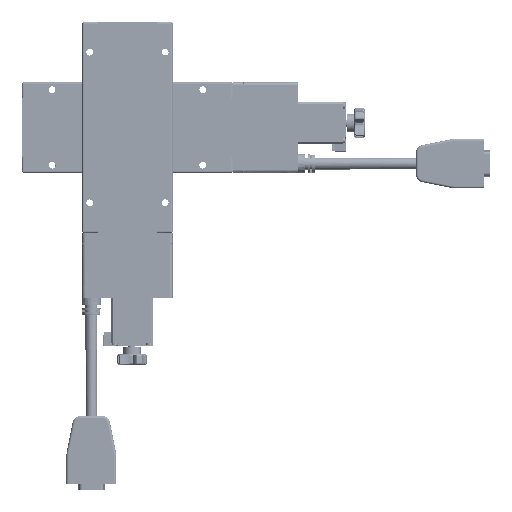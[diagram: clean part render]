
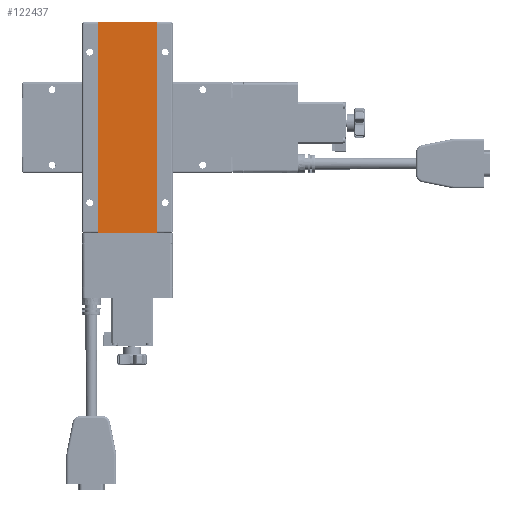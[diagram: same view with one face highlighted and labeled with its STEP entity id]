
A CAD part, front view. The second image highlights one B-rep face of the part: STEP entity #122437.
In plain terms, the highlighted planar face has unit normal (0, -1, 0).
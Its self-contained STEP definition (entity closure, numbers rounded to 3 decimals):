
#2657 = CARTESIAN_POINT ( 'NONE',  ( -19.3, -10.95, 23.267 ) ) ;
#12730 = DIRECTION ( 'NONE',  ( 1., 0., 0. ) ) ;
#16705 = CARTESIAN_POINT ( 'NONE',  ( 6.433, -10.95, 69.8 ) ) ;
#19106 = CARTESIAN_POINT ( 'NONE',  ( 19.3, -10.95, 23.267 ) ) ;
#26534 = CARTESIAN_POINT ( 'NONE',  ( 19.3, -10.95, -69.8 ) ) ;
#35456 = B_SPLINE_CURVE_WITH_KNOTS ( 'NONE', 3,
 ( #77722, #115469, #19106, #104163 ),
 .UNSPECIFIED., .F., .F.,
 ( 4, 4 ),
 ( 0., 1. ),
 .UNSPECIFIED. ) ;
#49563 = PLANE ( 'NONE',  #78795 ) ;
#60819 = CARTESIAN_POINT ( 'NONE',  ( 19.3, -10.95, -69.8 ) ) ;
#61284 = ORIENTED_EDGE ( 'NONE', *, *, #116953, .T. ) ;
#64030 = CARTESIAN_POINT ( 'NONE',  ( -19.3, -10.95, 69.8 ) ) ;
#64594 = CARTESIAN_POINT ( 'NONE',  ( -19.3, -10.95, -69.8 ) ) ;
#67294 = EDGE_LOOP ( 'NONE', ( #117882, #118744, #76586, #61284 ) ) ;
#76586 = ORIENTED_EDGE ( 'NONE', *, *, #108950, .T. ) ;
#77050 = VERTEX_POINT ( 'NONE', #108748 ) ;
#77722 = CARTESIAN_POINT ( 'NONE',  ( 19.3, -10.95, -69.8 ) ) ;
#78594 = EDGE_CURVE ( 'NONE', #144634, #138063, #108338, .T. ) ;
#78795 = AXIS2_PLACEMENT_3D ( 'NONE', #60819, #100165, #12730 ) ;
#80370 = CARTESIAN_POINT ( 'NONE',  ( -19.3, -10.95, 69.8 ) ) ;
#87284 = FACE_OUTER_BOUND ( 'NONE', #67294, .T. ) ;
#88802 = CARTESIAN_POINT ( 'NONE',  ( -19.3, -10.95, -69.8 ) ) ;
#100165 = DIRECTION ( 'NONE',  ( 0., 1., 0. ) ) ;
#101535 = CARTESIAN_POINT ( 'NONE',  ( 6.433, -10.95, -69.8 ) ) ;
#104163 = CARTESIAN_POINT ( 'NONE',  ( 19.3, -10.95, 69.8 ) ) ;
#105464 = CARTESIAN_POINT ( 'NONE',  ( 19.3, -10.95, -69.8 ) ) ;
#108338 = B_SPLINE_CURVE_WITH_KNOTS ( 'NONE', 3,
 ( #135863, #2657, #123038, #135058 ),
 .UNSPECIFIED., .F., .F.,
 ( 4, 4 ),
 ( 0., 1. ),
 .UNSPECIFIED. ) ;
#108748 = CARTESIAN_POINT ( 'NONE',  ( 19.3, -10.95, 69.8 ) ) ;
#108950 = EDGE_CURVE ( 'NONE', #138063, #118400, #147069, .T. ) ;
#113594 = CARTESIAN_POINT ( 'NONE',  ( -6.433, -10.95, -69.8 ) ) ;
#114600 = CARTESIAN_POINT ( 'NONE',  ( -6.433, -10.95, 69.8 ) ) ;
#115469 = CARTESIAN_POINT ( 'NONE',  ( 19.3, -10.95, -23.267 ) ) ;
#116953 = EDGE_CURVE ( 'NONE', #118400, #77050, #35456, .T. ) ;
#117882 = ORIENTED_EDGE ( 'NONE', *, *, #157720, .T. ) ;
#118400 = VERTEX_POINT ( 'NONE', #26534 ) ;
#118744 = ORIENTED_EDGE ( 'NONE', *, *, #78594, .T. ) ;
#122437 = ADVANCED_FACE ( 'NONE', ( #87284 ), #49563, .F. ) ;
#123038 = CARTESIAN_POINT ( 'NONE',  ( -19.3, -10.95, -23.267 ) ) ;
#126668 = CARTESIAN_POINT ( 'NONE',  ( 19.3, -10.95, 69.8 ) ) ;
#135058 = CARTESIAN_POINT ( 'NONE',  ( -19.3, -10.95, -69.8 ) ) ;
#135863 = CARTESIAN_POINT ( 'NONE',  ( -19.3, -10.95, 69.8 ) ) ;
#138063 = VERTEX_POINT ( 'NONE', #88802 ) ;
#144634 = VERTEX_POINT ( 'NONE', #80370 ) ;
#147069 = B_SPLINE_CURVE_WITH_KNOTS ( 'NONE', 3,
 ( #64594, #113594, #101535, #105464 ),
 .UNSPECIFIED., .F., .F.,
 ( 4, 4 ),
 ( 0., 1. ),
 .UNSPECIFIED. ) ;
#157720 = EDGE_CURVE ( 'NONE', #77050, #144634, #157891, .T. ) ;
#157891 = B_SPLINE_CURVE_WITH_KNOTS ( 'NONE', 3,
 ( #126668, #16705, #114600, #64030 ),
 .UNSPECIFIED., .F., .F.,
 ( 4, 4 ),
 ( 0., 1. ),
 .UNSPECIFIED. ) ;
